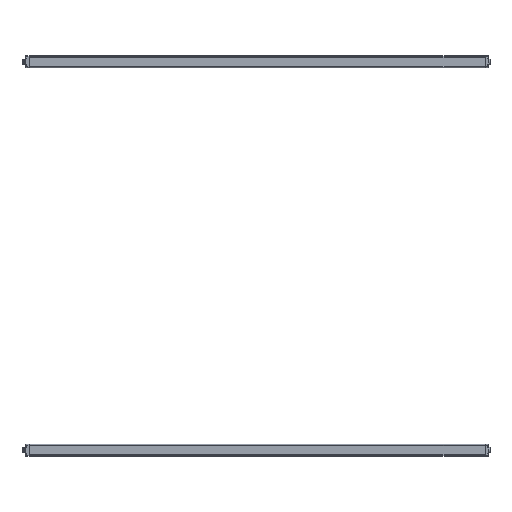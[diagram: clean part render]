
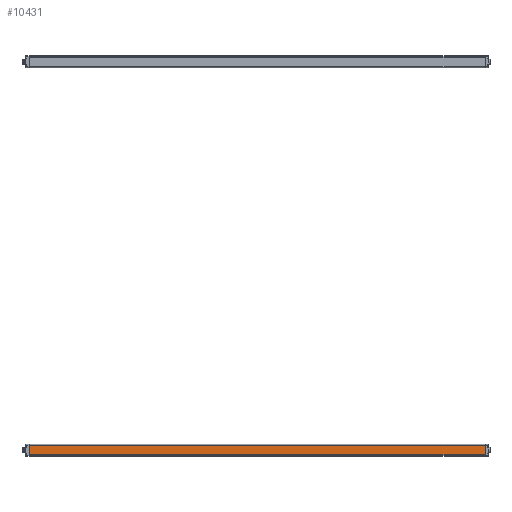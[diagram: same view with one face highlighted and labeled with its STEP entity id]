
A CAD part, front view. The second image highlights one B-rep face of the part: STEP entity #10431.
In plain terms, the highlighted planar face has unit normal (0, -1, 0) as drawn and (0, 1, 0) by its records, which use the part's own axes.
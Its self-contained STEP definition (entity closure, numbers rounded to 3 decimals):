
#754=LINE('',#15338,#1927);
#824=LINE('',#15490,#1997);
#918=LINE('',#15690,#2091);
#919=LINE('',#15691,#2092);
#1927=VECTOR('',#12160,1000.);
#1997=VECTOR('',#12258,1000.);
#2091=VECTOR('',#12444,1000.);
#2092=VECTOR('',#12445,1000.);
#3410=ORIENTED_EDGE('',*,*,#6192,.F.);
#3411=ORIENTED_EDGE('',*,*,#6294,.F.);
#3412=ORIENTED_EDGE('',*,*,#6115,.T.);
#3413=ORIENTED_EDGE('',*,*,#6295,.T.);
#6115=EDGE_CURVE('',#7621,#7620,#754,.T.);
#6192=EDGE_CURVE('',#7688,#7689,#824,.T.);
#6294=EDGE_CURVE('',#7621,#7688,#918,.T.);
#6295=EDGE_CURVE('',#7620,#7689,#919,.T.);
#7620=VERTEX_POINT('',#15337);
#7621=VERTEX_POINT('',#15339);
#7688=VERTEX_POINT('',#15489);
#7689=VERTEX_POINT('',#15491);
#8881=EDGE_LOOP('',(#3410,#3411,#3412,#3413));
#9465=FACE_BOUND('',#8881,.T.);
#10046=PLANE('',#11081);
#10431=ADVANCED_FACE('',(#9465),#10046,.T.);
#11081=AXIS2_PLACEMENT_3D('',#15689,#12442,#12443);
#12160=DIRECTION('',(0.,0.,1.));
#12258=DIRECTION('',(0.,0.,1.));
#12442=DIRECTION('',(0.,1.,0.));
#12443=DIRECTION('',(0.,0.,-1.));
#12444=DIRECTION('',(1.,0.,0.));
#12445=DIRECTION('',(1.,0.,0.));
#15337=CARTESIAN_POINT('',(0.,15.15,12.));
#15338=CARTESIAN_POINT('',(0.,15.15,-12.));
#15339=CARTESIAN_POINT('',(0.,15.15,-12.));
#15489=CARTESIAN_POINT('',(1205.,15.15,-12.));
#15490=CARTESIAN_POINT('',(1205.,15.15,0.));
#15491=CARTESIAN_POINT('',(1205.,15.15,12.));
#15689=CARTESIAN_POINT('',(0.,15.15,-15.65));
#15690=CARTESIAN_POINT('',(0.,15.15,-12.));
#15691=CARTESIAN_POINT('',(0.,15.15,12.));
